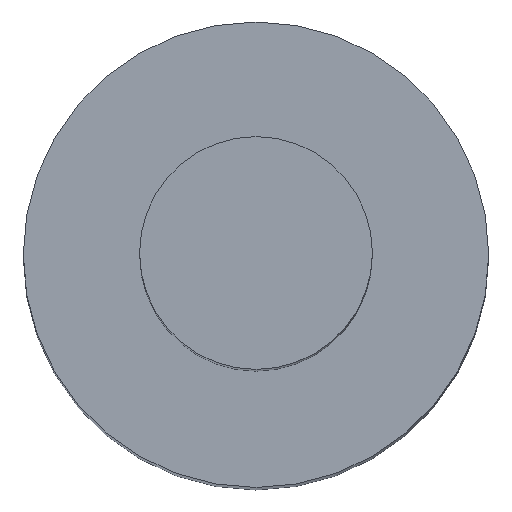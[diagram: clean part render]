
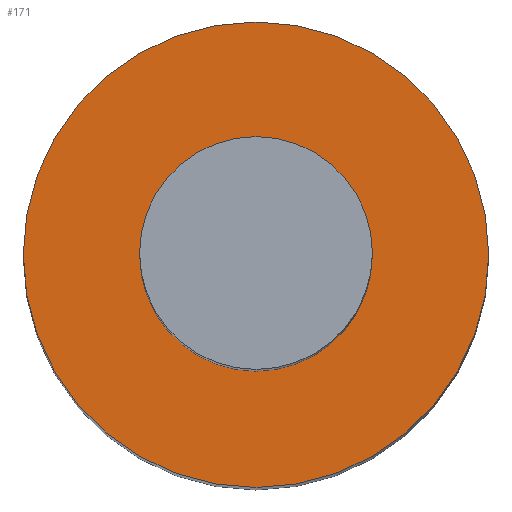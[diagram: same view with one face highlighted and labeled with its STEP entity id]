
A CAD part, top view. The second image highlights one B-rep face of the part: STEP entity #171.
In plain terms, the highlighted planar face has unit normal (0, 0, 1).
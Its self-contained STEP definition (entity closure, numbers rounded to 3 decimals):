
#6 = CARTESIAN_POINT ( 'NONE',  ( 0., 0., 24.8 ) ) ;
#8 = AXIS2_PLACEMENT_3D ( 'NONE', #123, #93, #194 ) ;
#17 = CARTESIAN_POINT ( 'NONE',  ( -2., 0., 24.8 ) ) ;
#40 = CARTESIAN_POINT ( 'NONE',  ( 0., 0., 24.8 ) ) ;
#52 = ORIENTED_EDGE ( 'NONE', *, *, #181, .T. ) ;
#59 = EDGE_LOOP ( 'NONE', ( #309, #176 ) ) ;
#72 = DIRECTION ( 'NONE',  ( 0., 0., 1. ) ) ;
#73 = EDGE_LOOP ( 'NONE', ( #52, #234 ) ) ;
#87 = VERTEX_POINT ( 'NONE', #285 ) ;
#93 = DIRECTION ( 'NONE',  ( 0., 0., 1. ) ) ;
#95 = CARTESIAN_POINT ( 'NONE',  ( 0., 0., 24.8 ) ) ;
#96 = FACE_BOUND ( 'NONE', #59, .T. ) ;
#100 = DIRECTION ( 'NONE',  ( 1., 0., 0. ) ) ;
#106 = CARTESIAN_POINT ( 'NONE',  ( 0., 0., 24.8 ) ) ;
#109 = DIRECTION ( 'NONE',  ( 0., 0., 1. ) ) ;
#119 = FACE_OUTER_BOUND ( 'NONE', #73, .T. ) ;
#123 = CARTESIAN_POINT ( 'NONE',  ( 0., 0., 24.8 ) ) ;
#142 = CIRCLE ( 'NONE', #149, 4. ) ;
#145 = AXIS2_PLACEMENT_3D ( 'NONE', #106, #314, #237 ) ;
#149 = AXIS2_PLACEMENT_3D ( 'NONE', #40, #72, #250 ) ;
#170 = DIRECTION ( 'NONE',  ( 1., 0., 0. ) ) ;
#171 = ADVANCED_FACE ( 'NONE', ( #96, #119 ), #277, .T. ) ;
#174 = VERTEX_POINT ( 'NONE', #195 ) ;
#176 = ORIENTED_EDGE ( 'NONE', *, *, #325, .F. ) ;
#181 = EDGE_CURVE ( 'NONE', #334, #87, #142, .T. ) ;
#185 = CIRCLE ( 'NONE', #192, 4. ) ;
#192 = AXIS2_PLACEMENT_3D ( 'NONE', #6, #109, #100 ) ;
#194 = DIRECTION ( 'NONE',  ( 1., 0., 0. ) ) ;
#195 = CARTESIAN_POINT ( 'NONE',  ( 2., 0., 24.8 ) ) ;
#202 = CARTESIAN_POINT ( 'NONE',  ( -4., 0., 24.8 ) ) ;
#216 = EDGE_CURVE ( 'NONE', #174, #231, #226, .T. ) ;
#226 = CIRCLE ( 'NONE', #8, 2. ) ;
#231 = VERTEX_POINT ( 'NONE', #17 ) ;
#234 = ORIENTED_EDGE ( 'NONE', *, *, #332, .T. ) ;
#237 = DIRECTION ( 'NONE',  ( 1., 0., 0. ) ) ;
#250 = DIRECTION ( 'NONE',  ( 1., 0., 0. ) ) ;
#277 = PLANE ( 'NONE',  #300 ) ;
#285 = CARTESIAN_POINT ( 'NONE',  ( 4., 0., 24.8 ) ) ;
#293 = CIRCLE ( 'NONE', #145, 2. ) ;
#298 = DIRECTION ( 'NONE',  ( 0., 0., 1. ) ) ;
#300 = AXIS2_PLACEMENT_3D ( 'NONE', #95, #298, #170 ) ;
#309 = ORIENTED_EDGE ( 'NONE', *, *, #216, .F. ) ;
#314 = DIRECTION ( 'NONE',  ( 0., 0., 1. ) ) ;
#325 = EDGE_CURVE ( 'NONE', #231, #174, #293, .T. ) ;
#332 = EDGE_CURVE ( 'NONE', #87, #334, #185, .T. ) ;
#334 = VERTEX_POINT ( 'NONE', #202 ) ;
